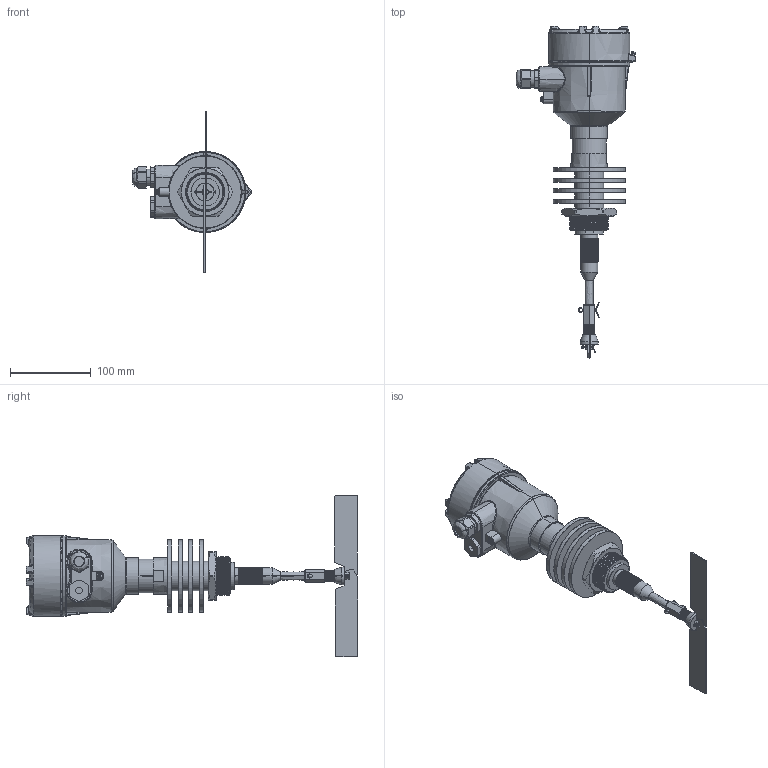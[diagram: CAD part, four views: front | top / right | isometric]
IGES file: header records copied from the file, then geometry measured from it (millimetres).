
Start section: SolidWorks IGES file using analytic representation for surfaces
Global section: file name: C:\Users\Äîì\Desktop\Äàò÷èêè ìîäåëè\IL-N-Ex-HT\Eiiian\IL-LAA-N-Ex ñêëàäíàÿ ëîïàñòü - ð.IGS; native system: SolidWorks 2020; preprocessor: SolidWorks 2020; author: Äîì; date: 201227.232554; units: millimetre
Bounding box: 147.54 x 410 x 200 mm (x, y, z)
Surface area: 180550.6 mm2 (no closed solid volume)
Topology: 0 solids, 0 shells, 1061 faces, 12442 edges, 12398 vertices
Faces by surface type: bspline 627, revolution 434
